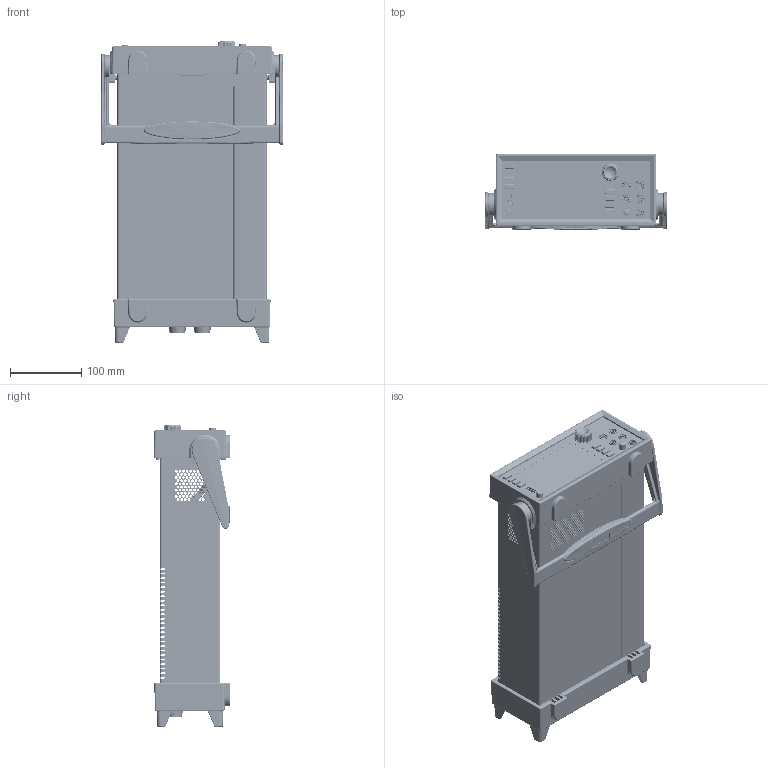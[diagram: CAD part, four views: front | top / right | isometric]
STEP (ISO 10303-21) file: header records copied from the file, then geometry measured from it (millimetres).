
FILE_DESCRIPTION((''),'2;1');
FILE_NAME('DMM7510_ASM','2015-04-15T',('jpeters'),('Keithley Instruments, Inc'),'PRO/ENGINEER BY PARAMETRIC TECHNOLOGY CORPORATION, 2012480','PRO/ENGINEER BY PARAMETRIC TECHNOLOGY CORPORATION, 2012480','');
FILE_SCHEMA(('CONFIG_CONTROL_DESIGN'));
Length unit declared in the file: inch
Products named in the file (71): CS-1234; 2040-160_ASM; 2040-303; PEM-CLS-632-2; PEM-BS-632-2; PEM-RAS-632-10-8; PEM-AC-632-2; 2040-303_ASM; 2040-315; 2040-316; 2040-315_ASM; 6-32X3-8PPHSEM; BJ-30-2-SHELL; BJ-30-2-PIN; BJ-30-2_ASM; BJ-30-0-SHELL; BJ-30-0-PIN; BJ-30-0_ASM; BJ-14-SHELL; BJ-14-PIN; BJ-14-9_ASM; 3521153-HPD; 2101675; 3374699; 3521153-WASHER; 3521153-NUT; PM-26; DMM7510-REAR-PANEL_ASM; CS-792; 2040-100_ASM; CS-507; CS-1150-1; CS-761-9; CS-1032; CS-1644-2; SW-543-1; 2450-140_ASM; CS-716-4; CS-713; CS-725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
Assembly tree (86 placements, depth 5):
  DMM7510_ASM
    2040-160_ASM
      CS-1234
    DMM7510-REAR-PANEL_ASM
      2040-303_ASM
        2040-303
        PEM-CLS-632-2  x3
        PEM-BS-632-2
        PEM-RAS-632-10-8  x3
        PEM-AC-632-2
      2040-315_ASM
        2040-315
        2040-316
      6-32X3-8PPHSEM
      BJ-30-2_ASM  x2
        BJ-30-2-SHELL
        BJ-30-2-PIN
      BJ-30-0_ASM  x2
        BJ-30-0-SHELL
        BJ-30-0-PIN
      BJ-14-9_ASM  x2
        BJ-14-SHELL
        BJ-14-PIN
      3521153-HPD  x2
      2101675
      3374699
      3521153-WASHER
      3521153-NUT
      PM-26
    2040-100_ASM
      CS-792
    2450-140_ASM
      CS-507
      CS-1150-1
      CS-761-9
      CS-1032
      CS-1644-2
      SW-543-1
    CS-716-4
    CS-713  x2
    CS-725  x2
    DMM7510-FRONT-PANEL_ASM
      2450-305
      DMM7510-FRONT-PANEL-INSERT_ASM
        2040-307_ASM
          2040-307
          2040-308
        2040-313_ASM
          2040-313
          2450-313-1
          2450-313-2
          2040-314
        DD-77_ASM
          DD-77-GLASS
      2450-306_ASM
        2450-306
        2450-322  x5
      2450-326_ASM
        2450-326
        2450-326-OVERMOLD
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Bounding box: 255.27 x 107.2 x 423.25 mm (x, y, z)
Volume: 1040388.4 mm3; surface area: 901403.1 mm2
Topology: 70 solids, 101 shells, 13765 faces, 36593 edges, 23366 vertices
Faces by surface type: plane 7812, cylinder 3766, bspline 831, cone 684, torus 344, sphere 179, extrusion 149
Entity records: 421548 total; most frequent: CARTESIAN_POINT 120135, ORIENTED_EDGE 63526, DIRECTION 59866, EDGE_CURVE 31905, VECTOR 21618, LINE 21469, VERTEX_POINT 20363, AXIS2_PLACEMENT_3D 19124
